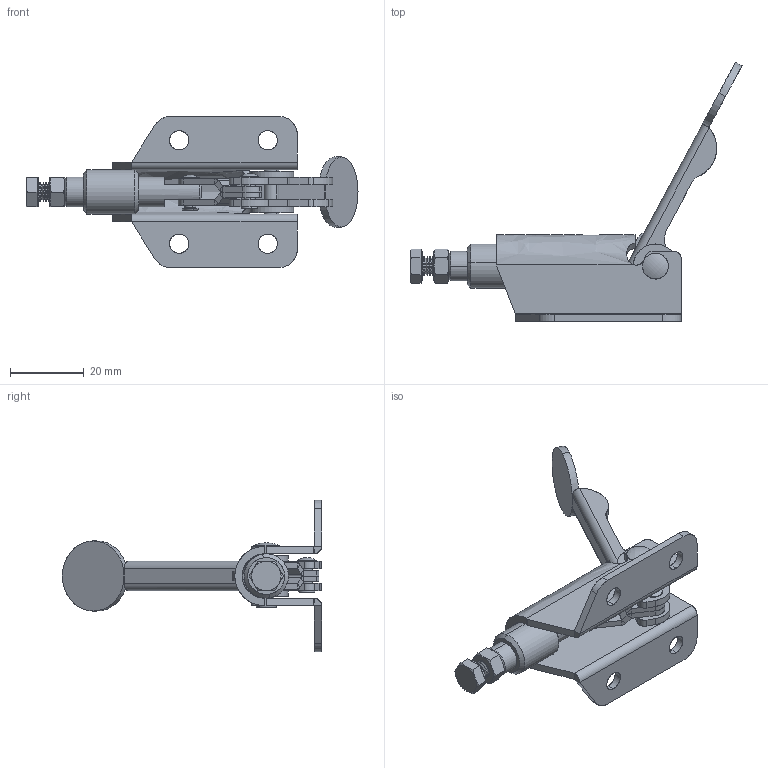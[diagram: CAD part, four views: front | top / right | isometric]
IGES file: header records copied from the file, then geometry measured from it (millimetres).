
Start section: SolidWorks IGES file using analytic representation for surfaces
Global section: file name: \\BARTOP_SV6\share\SOLIDWORKS\工具事業部\坂入用\Toggle clamp\ISK-070\ISK-070.IGS; native system: SolidWorks 2015; preprocessor: SolidWorks 2015; author: SOLID02; date: 150731.101955; units: millimetre
Bounding box: 89.95 x 70.23 x 41 mm (x, y, z)
Surface area: 15115.9 mm2 (no closed solid volume)
Topology: 0 solids, 0 shells, 421 faces, 4830 edges, 4828 vertices
Faces by surface type: revolution 271, bspline 150
